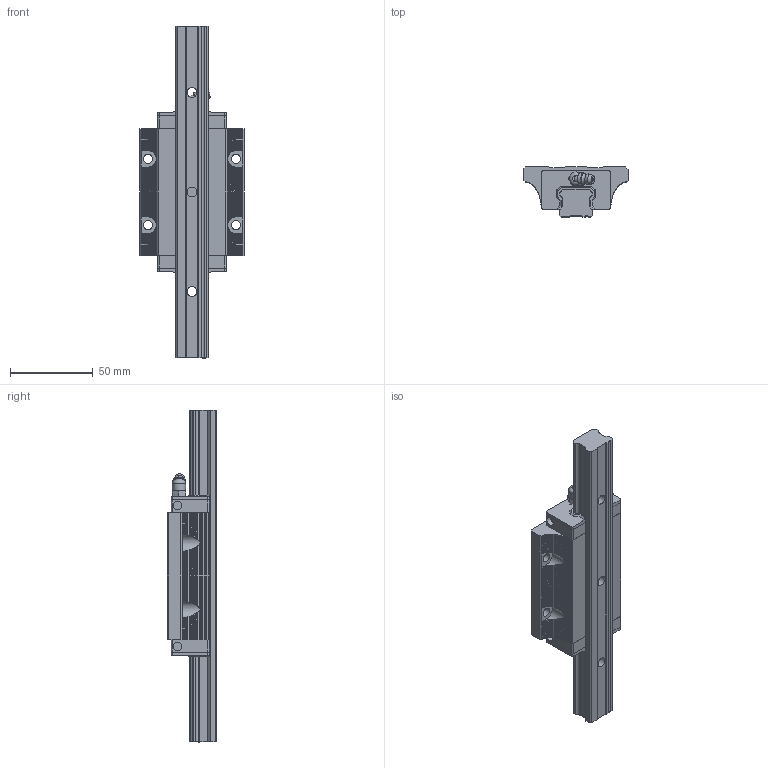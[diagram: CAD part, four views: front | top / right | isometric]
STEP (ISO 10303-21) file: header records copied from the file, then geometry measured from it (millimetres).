
FILE_DESCRIPTION((''),'2;1');
FILE_NAME('C:\Documents and Settings\土屋\My Documents\土屋移動用フォルダ\製品 (図面)\カタログ用3D\リニアガイド\EGH-FL\EGH20FL.stp','2015-12-16T09:23:52',('y'),(''),'Autodesk Inventor 11','Autodesk Inventor 11','');
FILE_SCHEMA(('AUTOMOTIVE_DESIGN { 1 0 10303 214 1 1 1 1 }'));
Length unit declared in the file: millimetre
Products named in the file (3): EGH20FL; EGH20FLレール; EGH20FLキャリッジ
Assembly tree (2 placements, depth 2):
  EGH20FL
    EGH20FLレール
    EGH20FLキャリッジ
Bounding box: 63 x 30 x 200 mm (x, y, z)
Volume: 153283.7 mm3; surface area: 43860 mm2
Topology: 7 solids, 7 shells, 515 faces, 1455 edges, 964 vertices
Faces by surface type: plane 374, cylinder 113, cone 16, bspline 10, torus 1, sphere 1
Full cylindrical faces by diameter (mm): 5.3 x4, 5.4 x4, 6 x8, 7.75 x1, 8 x1, 9.5 x3
Entity records: 16865 total; most frequent: CARTESIAN_POINT 3577, ORIENTED_EDGE 2840, DIRECTION 2592, EDGE_CURVE 1420, VECTOR 978, LINE 978, VERTEX_POINT 959, AXIS2_PLACEMENT_3D 807
